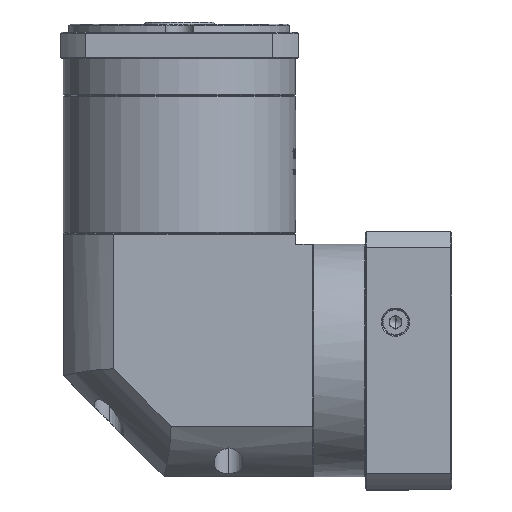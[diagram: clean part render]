
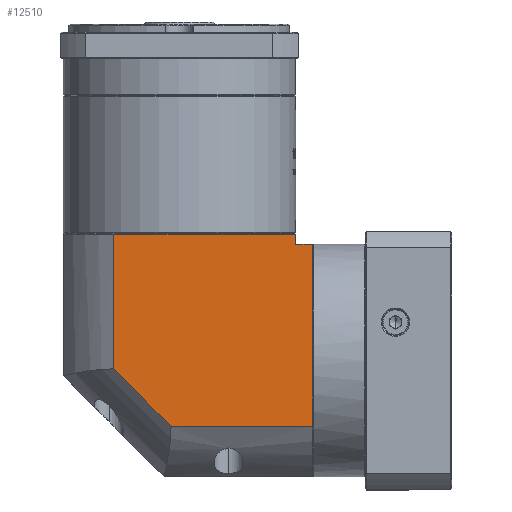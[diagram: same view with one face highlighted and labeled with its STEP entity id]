
A CAD part, left-side view. The second image highlights one B-rep face of the part: STEP entity #12510.
In plain terms, the highlighted planar face has unit normal (-1, 0, 0).
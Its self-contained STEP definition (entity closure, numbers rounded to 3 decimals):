
#908 = CARTESIAN_POINT ( 'NONE',  ( -271.005, -56.093, -29.276 ) ) ;
#3019 = VERTEX_POINT ( 'NONE', #88477 ) ;
#3421 = VECTOR ( 'NONE', #161172, 1000. ) ;
#11927 = DIRECTION ( 'NONE',  ( 0., 0., -1. ) ) ;
#12510 = ADVANCED_FACE ( 'NONE', ( #14717 ), #13570, .F. ) ;
#13570 = PLANE ( 'NONE',  #28631 ) ;
#14717 = FACE_OUTER_BOUND ( 'NONE', #63008, .T. ) ;
#17161 = DIRECTION ( 'NONE',  ( 0., 0., 1. ) ) ;
#17213 = VERTEX_POINT ( 'NONE', #71193 ) ;
#20822 = CARTESIAN_POINT ( 'NONE',  ( -271.005, -56.093, -29.276 ) ) ;
#22186 = LINE ( 'NONE', #83503, #31986 ) ;
#27463 = VECTOR ( 'NONE', #102287, 1000. ) ;
#28631 = AXIS2_PLACEMENT_3D ( 'NONE', #50596, #115898, #102054 ) ;
#31986 = VECTOR ( 'NONE', #147138, 1000. ) ;
#36240 = LINE ( 'NONE', #20822, #65897 ) ;
#41244 = LINE ( 'NONE', #126125, #27463 ) ;
#43061 = ORIENTED_EDGE ( 'NONE', *, *, #146010, .T. ) ;
#43314 = VERTEX_POINT ( 'NONE', #77406 ) ;
#44439 = ORIENTED_EDGE ( 'NONE', *, *, #150587, .T. ) ;
#50587 = DIRECTION ( 'NONE',  ( 0., -1., 0. ) ) ;
#50596 = CARTESIAN_POINT ( 'NONE',  ( -271.005, -2.655, 72.124 ) ) ;
#50788 = EDGE_CURVE ( 'NONE', #43314, #151955, #41244, .T. ) ;
#58705 = VECTOR ( 'NONE', #50587, 1000. ) ;
#62955 = CARTESIAN_POINT ( 'NONE',  ( -271.005, -27.755, -0.938 ) ) ;
#63008 = EDGE_LOOP ( 'NONE', ( #121893, #139449, #137931, #89742, #43061, #44439, #153243 ) ) ;
#63954 = CARTESIAN_POINT ( 'NONE',  ( -271.005, -117.655, 65.624 ) ) ;
#65897 = VECTOR ( 'NONE', #148591, 1000. ) ;
#71193 = CARTESIAN_POINT ( 'NONE',  ( -271.005, -117.655, 60.624 ) ) ;
#77406 = CARTESIAN_POINT ( 'NONE',  ( -271.005, -126.055, -29.276 ) ) ;
#83503 = CARTESIAN_POINT ( 'NONE',  ( -271.005, -117.655, 60.624 ) ) ;
#88477 = CARTESIAN_POINT ( 'NONE',  ( -271.005, -126.055, 60.624 ) ) ;
#88585 = EDGE_CURVE ( 'NONE', #157399, #157443, #110031, .T. ) ;
#89742 = ORIENTED_EDGE ( 'NONE', *, *, #94838, .F. ) ;
#92919 = CARTESIAN_POINT ( 'NONE',  ( -271.005, -27.755, 72.124 ) ) ;
#94838 = EDGE_CURVE ( 'NONE', #3019, #43314, #130136, .T. ) ;
#96505 = VECTOR ( 'NONE', #11927, 1000. ) ;
#99095 = CARTESIAN_POINT ( 'NONE',  ( -271.005, -117.655, -54.376 ) ) ;
#102054 = DIRECTION ( 'NONE',  ( 0., 1., 0. ) ) ;
#102287 = DIRECTION ( 'NONE',  ( 0., 1., 0. ) ) ;
#103181 = LINE ( 'NONE', #92919, #146709 ) ;
#110031 = LINE ( 'NONE', #114279, #58705 ) ;
#114279 = CARTESIAN_POINT ( 'NONE',  ( -271.005, -2.655, 65.624 ) ) ;
#115898 = DIRECTION ( 'NONE',  ( 1., 0., 0. ) ) ;
#121893 = ORIENTED_EDGE ( 'NONE', *, *, #156874, .F. ) ;
#126125 = CARTESIAN_POINT ( 'NONE',  ( -271.005, -2.655, -29.276 ) ) ;
#130136 = LINE ( 'NONE', #159708, #96505 ) ;
#137931 = ORIENTED_EDGE ( 'NONE', *, *, #50788, .F. ) ;
#138612 = EDGE_CURVE ( 'NONE', #151955, #159388, #36240, .T. ) ;
#139449 = ORIENTED_EDGE ( 'NONE', *, *, #138612, .F. ) ;
#146010 = EDGE_CURVE ( 'NONE', #3019, #17213, #22186, .T. ) ;
#146709 = VECTOR ( 'NONE', #17161, 1000. ) ;
#147138 = DIRECTION ( 'NONE',  ( 0., 1., 0. ) ) ;
#148591 = DIRECTION ( 'NONE',  ( 0., 0.707, 0.707 ) ) ;
#150587 = EDGE_CURVE ( 'NONE', #17213, #157443, #161784, .T. ) ;
#151955 = VERTEX_POINT ( 'NONE', #908 ) ;
#153243 = ORIENTED_EDGE ( 'NONE', *, *, #88585, .F. ) ;
#154728 = CARTESIAN_POINT ( 'NONE',  ( -271.005, -27.755, 65.624 ) ) ;
#156874 = EDGE_CURVE ( 'NONE', #159388, #157399, #103181, .T. ) ;
#157399 = VERTEX_POINT ( 'NONE', #154728 ) ;
#157443 = VERTEX_POINT ( 'NONE', #63954 ) ;
#159388 = VERTEX_POINT ( 'NONE', #62955 ) ;
#159708 = CARTESIAN_POINT ( 'NONE',  ( -271.005, -126.055, 72.124 ) ) ;
#161172 = DIRECTION ( 'NONE',  ( 0., 0., 1. ) ) ;
#161784 = LINE ( 'NONE', #99095, #3421 ) ;
